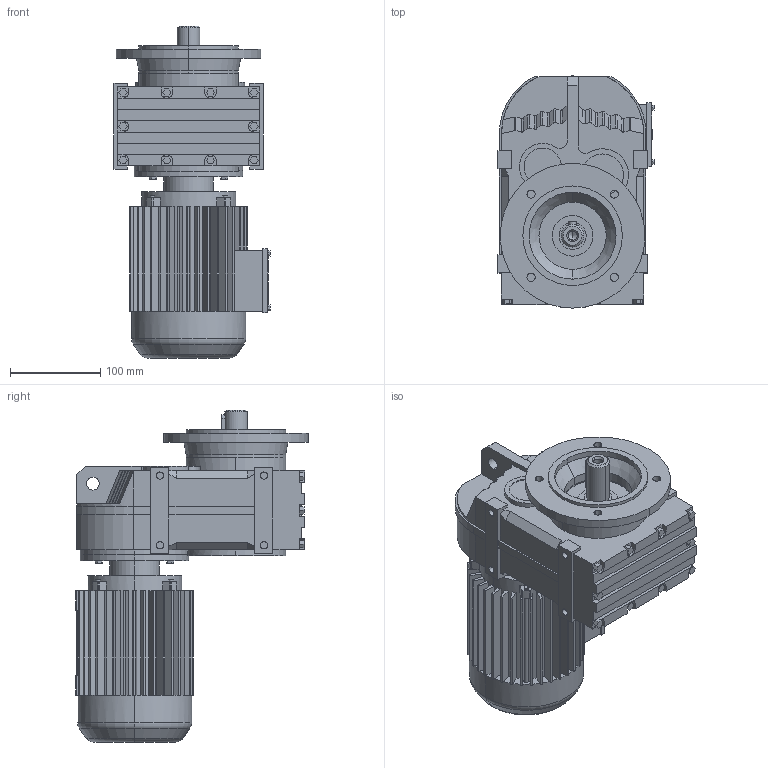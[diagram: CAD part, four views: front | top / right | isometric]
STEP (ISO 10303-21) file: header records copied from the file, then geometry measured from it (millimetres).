
FILE_DESCRIPTION(('Open CASCADE Model'),'2;1');
FILE_NAME('Open CASCADE Shape Model','2018-09-12T10:27:06',('Author'),( 'Open CASCADE'),'Open CASCADE STEP processor 6.3','Open CASCADE 6.3' ,'Unknown');
FILE_SCHEMA(('AUTOMOTIVE_DESIGN_CC2 { 1 2 10303 214 -1 1 5 4 }'));
Length unit declared in the file: millimetre
Products named in the file (5): 31_FF37-Y63S; FA27‵157_37.step; 萇儂_120_Y63S.step; す瑩妗陑粣F_37.step; 楊擘F_37.step
Assembly tree (4 placements, depth 2):
  31_FF37-Y63S
    FA27‵157_37.step
    萇儂_120_Y63S.step
    す瑩妗陑粣F_37.step
    楊擘F_37.step
Bounding box: 172.5 x 257 x 367 mm (x, y, z)
Volume: 5866289.7 mm3; surface area: 473141.3 mm2
Topology: 4 solids, 4 shells, 810 faces, 2134 edges, 1384 vertices
Faces by surface type: plane 567, cylinder 211, bspline 16, cone 12, torus 4
Entity records: 55040 total; most frequent: CARTESIAN_POINT 14199, DIRECTION 7117, ORIENTED_EDGE 4264, PCURVE 4264, DEFINITIONAL_REPRESENTATION 4264, LINE 3959, VECTOR 3959, EDGE_CURVE 2132
